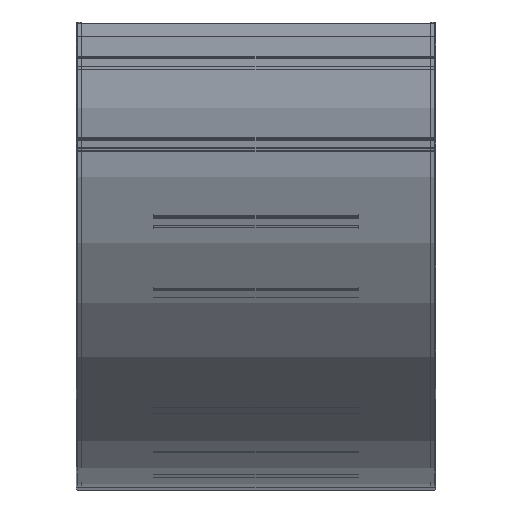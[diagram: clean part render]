
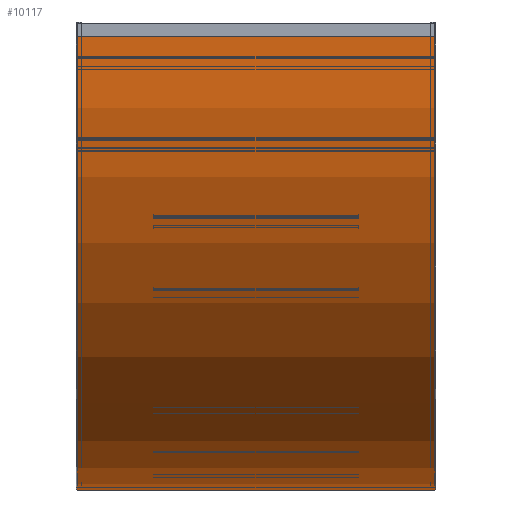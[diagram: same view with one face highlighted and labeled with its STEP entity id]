
A CAD part, front view. The second image highlights one B-rep face of the part: STEP entity #10117.
In plain terms, the highlighted cylindrical face has radius 1348.26 mm (diameter 2696.51 mm), a partial arc.
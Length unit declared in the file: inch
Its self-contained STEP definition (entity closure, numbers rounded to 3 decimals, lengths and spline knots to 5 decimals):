
#9823=CARTESIAN_POINT('',(20.9375,53.041,0.));
#9824=DIRECTION('',(-1.,0.,0.));
#9825=DIRECTION('',(0.,-1.,0.));
#9826=AXIS2_PLACEMENT_3D('',#9823,#9824,#9825);
#9849=CARTESIAN_POINT('',(-20.9375,53.041,0.));
#9850=DIRECTION('',(-1.,0.,0.));
#9851=DIRECTION('',(0.,-1.,0.));
#9852=AXIS2_PLACEMENT_3D('',#9849,#9850,#9851);
#9882=DIRECTION('',(-1.,0.,0.));
#9883=VECTOR('',#9882,41.875);
#9884=CARTESIAN_POINT('',(20.9375,53.041,53.081));
#9885=LINE('',#9884,#9883);
#9886=DIRECTION('',(-1.,0.,0.));
#9887=VECTOR('',#9886,41.875);
#9888=CARTESIAN_POINT('',(20.9375,-0.04,0.));
#9889=LINE('',#9888,#9887);
#9922=CARTESIAN_POINT('',(20.9375,-0.04,0.));
#9924=VERTEX_POINT('',#9922);
#9928=CARTESIAN_POINT('',(-20.9375,-0.04,0.));
#9929=VERTEX_POINT('',#9928);
#9938=CARTESIAN_POINT('',(20.9375,53.041,53.081));
#9939=VERTEX_POINT('',#9938);
#9942=CARTESIAN_POINT('',(-20.9375,53.041,53.081));
#9943=VERTEX_POINT('',#9942);
#10105=CARTESIAN_POINT('',(20.9375,53.041,0.));
#10106=DIRECTION('',(-1.,0.,0.));
#10107=DIRECTION('',(0.,0.,1.));
#10108=AXIS2_PLACEMENT_3D('',#10105,#10106,#10107);
#10109=CYLINDRICAL_SURFACE('',#10108,53.081);
#10110=ORIENTED_EDGE('',*,*,#9985,.F.);
#10112=ORIENTED_EDGE('',*,*,#10111,.T.);
#10113=ORIENTED_EDGE('',*,*,#10042,.T.);
#10114=ORIENTED_EDGE('',*,*,#10097,.F.);
#10115=EDGE_LOOP('',(#10110,#10112,#10113,#10114));
#10116=FACE_OUTER_BOUND('',#10115,.F.);
#10117=ADVANCED_FACE('',(#10116),#10109,.T.);
#9827=CIRCLE('',#9826,53.081);
#9853=CIRCLE('',#9852,53.081);
#9985=EDGE_CURVE('',#9924,#9939,#9827,.T.);
#10042=EDGE_CURVE('',#9929,#9943,#9853,.T.);
#10097=EDGE_CURVE('',#9939,#9943,#9885,.T.);
#10111=EDGE_CURVE('',#9924,#9929,#9889,.T.);
